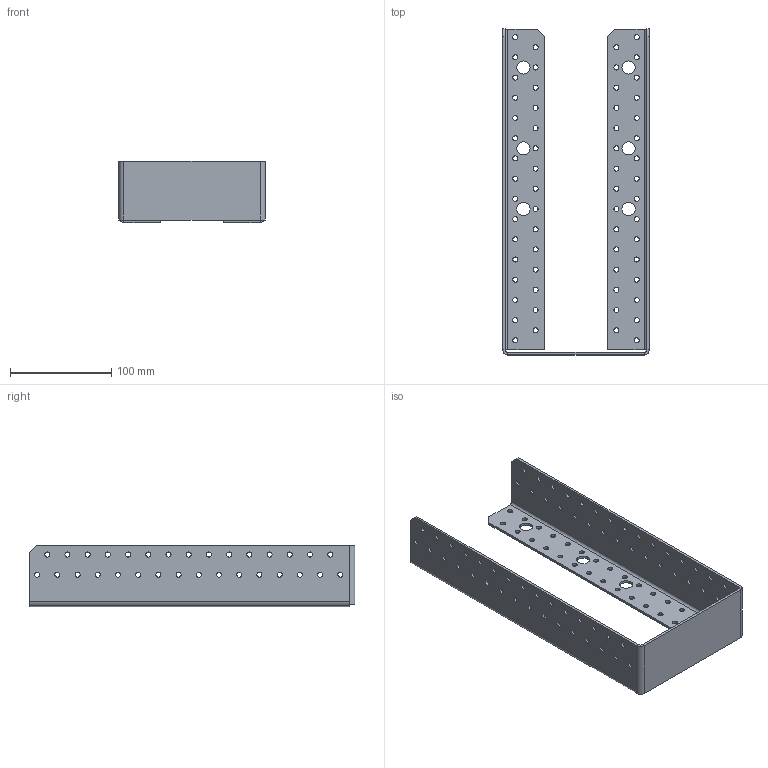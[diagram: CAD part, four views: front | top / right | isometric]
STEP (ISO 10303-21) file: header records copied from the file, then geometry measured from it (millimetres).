
FILE_DESCRIPTION (( 'STEP AP203' ), '1' );
FILE_NAME ('40512IKO.STEP', '2021-04-16T08:31:41', ( '' ), ( '' ), 'SwSTEP 2.0', 'SolidWorks 2013', '' );
FILE_SCHEMA (( 'CONFIG_CONTROL_DESIGN' ));
Length unit declared in the file: millimetre
Products named in the file (1): 40512IKO
Bounding box: 145 x 322.5 x 60.5 mm (x, y, z)
Volume: 168361.6 mm3; surface area: 144730.3 mm2
Topology: 1 solids, 1 shells, 304 faces, 876 edges, 574 vertices
Faces by surface type: cylinder 268, plane 36
Entity records: 10855 total; most frequent: DIRECTION 2024, CARTESIAN_POINT 1755, ORIENTED_EDGE 1752, EDGE_CURVE 876, AXIS2_PLACEMENT_3D 843, VERTEX_POINT 574, EDGE_LOOP 564, CIRCLE 538
